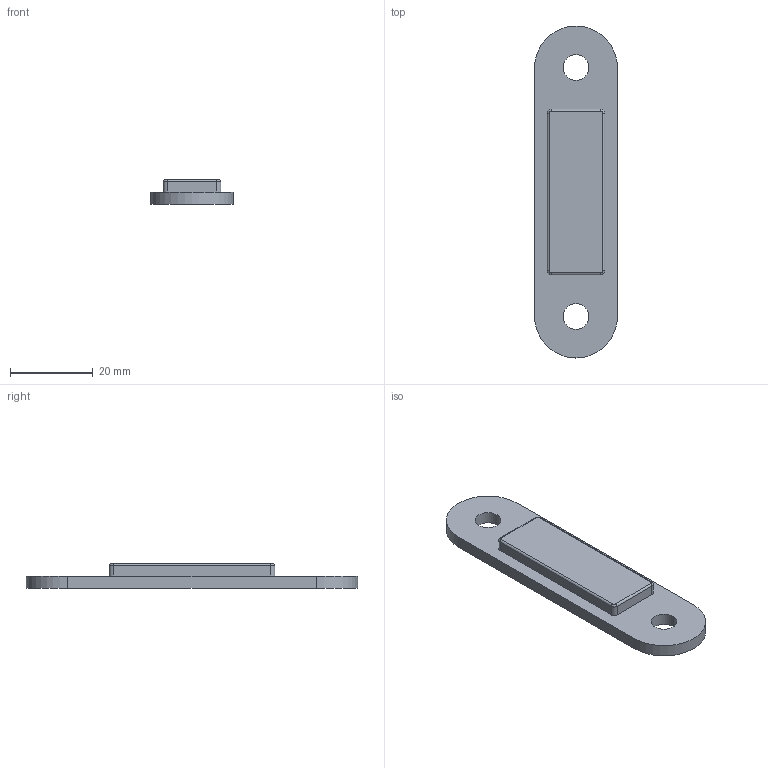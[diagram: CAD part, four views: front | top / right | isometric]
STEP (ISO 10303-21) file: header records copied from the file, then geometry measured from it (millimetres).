
FILE_DESCRIPTION (( 'STEP AP214' ), '1' );
FILE_NAME ('EL-115H-SP.STEP', '2020-03-13T14:33:22', ( '' ), ( '' ), 'SwSTEP 2.0', 'SolidWorks 2019', '' );
FILE_SCHEMA (( 'AUTOMOTIVE_DESIGN' ));
Length unit declared in the file: millimetre
Products named in the file (1): EL-115H-SP
Bounding box: 20 x 80 x 6 mm (x, y, z)
Volume: 6016.9 mm3; surface area: 3867.7 mm2
Topology: 1 solids, 1 shells, 27 faces, 64 edges, 40 vertices
Faces by surface type: cylinder 14, plane 9, torus 4
Entity records: 828 total; most frequent: DIRECTION 152, CARTESIAN_POINT 132, ORIENTED_EDGE 128, EDGE_CURVE 64, AXIS2_PLACEMENT_3D 60, VERTEX_POINT 40, VECTOR 32, LINE 32
